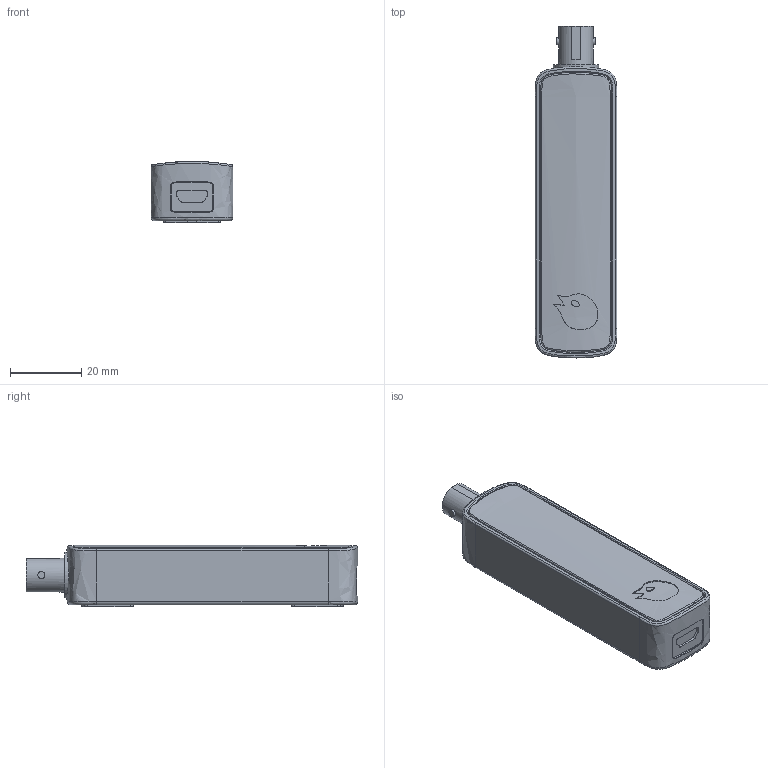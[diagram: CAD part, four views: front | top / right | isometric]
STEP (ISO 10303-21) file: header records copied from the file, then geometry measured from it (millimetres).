
FILE_DESCRIPTION (( 'STEP AP203' ), '1' );
FILE_NAME ('8252070-DSM - X2 Volt Sensor - external geometry.STEP', '2025-08-28T12:45:10', ( '' ), ( '' ), 'SwSTEP 2.0', 'SolidWorks 2024', '' );
FILE_SCHEMA (( 'CONFIG_CONTROL_DESIGN' ));
Length unit declared in the file: millimetre
Products named in the file (1): 8252070-DSM - X2 Volt Sensor - external geometry
Bounding box: 22.99 x 93.09 x 17.18 mm (x, y, z)
Surface area: 8761.7 mm2 (no closed solid volume)
Topology: 0 solids, 7 shells, 145 faces, 411 edges, 278 vertices
Faces by surface type: plane 55, cylinder 48, bspline 35, torus 5, cone 2
Full cylindrical faces by diameter (mm): 1.981 x2, 2.108 x1, 9.652 x1, 12.75 x1, 13 x1
Entity records: 10770 total; most frequent: CARTESIAN_POINT 7213, ORIENTED_EDGE 691, DIRECTION 659, EDGE_CURVE 399, VERTEX_POINT 274, AXIS2_PLACEMENT_3D 231, LINE 197, VECTOR 197
